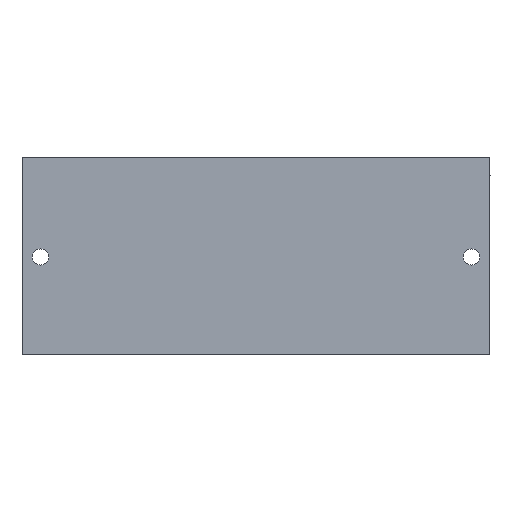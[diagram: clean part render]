
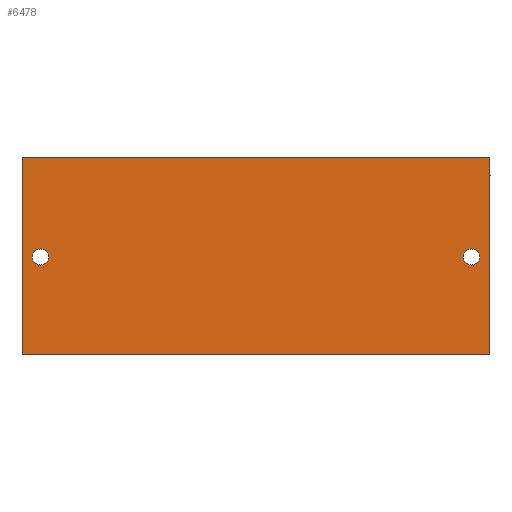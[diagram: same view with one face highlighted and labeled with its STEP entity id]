
A CAD part, front view. The second image highlights one B-rep face of the part: STEP entity #6478.
In plain terms, the highlighted planar face has unit normal (0, -1, 0).
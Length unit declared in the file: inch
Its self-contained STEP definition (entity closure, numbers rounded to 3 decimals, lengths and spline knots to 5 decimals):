
#84 = CIRCLE ( 'NONE', #210, 0.164 ) ;
#210 = AXIS2_PLACEMENT_3D ( 'NONE', #17664, #8723, #19172 ) ;
#327 = AXIS2_PLACEMENT_3D ( 'NONE', #11239, #2278, #12725 ) ;
#986 = VERTEX_POINT ( 'NONE', #18528 ) ;
#1224 = DIRECTION ( 'NONE',  ( 0., 0., -1. ) ) ;
#1345 = EDGE_LOOP ( 'NONE', ( #8851, #9777 ) ) ;
#1467 = VERTEX_POINT ( 'NONE', #12707 ) ;
#1694 = CARTESIAN_POINT ( 'NONE',  ( 9.5, 0., 0. ) ) ;
#2027 = DIRECTION ( 'NONE',  ( 0., 1., 0. ) ) ;
#2278 = DIRECTION ( 'NONE',  ( 0., 1., 0. ) ) ;
#2705 = VECTOR ( 'NONE', #7541, 39.37008 ) ;
#2760 = CARTESIAN_POINT ( 'NONE',  ( 0., 0., 0. ) ) ;
#3185 = VECTOR ( 'NONE', #11961, 39.37008 ) ;
#3341 = VERTEX_POINT ( 'NONE', #18636 ) ;
#3638 = VECTOR ( 'NONE', #1224, 39.37008 ) ;
#3829 = VERTEX_POINT ( 'NONE', #14804 ) ;
#3967 = AXIS2_PLACEMENT_3D ( 'NONE', #11078, #11058, #11051 ) ;
#4126 = LINE ( 'NONE', #19065, #3638 ) ;
#4139 = ORIENTED_EDGE ( 'NONE', *, *, #17902, .F. ) ;
#4462 = AXIS2_PLACEMENT_3D ( 'NONE', #14845, #14908, #14764 ) ;
#5063 = LINE ( 'NONE', #6692, #16993 ) ;
#5288 = VERTEX_POINT ( 'NONE', #1694 ) ;
#5597 = FACE_BOUND ( 'NONE', #1345, .T. ) ;
#6478 = ADVANCED_FACE ( 'NONE', ( #5597, #9084, #9549 ), #14812, .F. ) ;
#6692 = CARTESIAN_POINT ( 'NONE',  ( 9.5, 0., 0. ) ) ;
#6771 = EDGE_LOOP ( 'NONE', ( #18183, #4139, #12983, #9985 ) ) ;
#6868 = EDGE_CURVE ( 'NONE', #17764, #11038, #19388, .T. ) ;
#7170 = LINE ( 'NONE', #10463, #3185 ) ;
#7541 = DIRECTION ( 'NONE',  ( 0., 0., -1. ) ) ;
#8723 = DIRECTION ( 'NONE',  ( 0., 1., 0. ) ) ;
#8813 = ORIENTED_EDGE ( 'NONE', *, *, #6868, .T. ) ;
#8851 = ORIENTED_EDGE ( 'NONE', *, *, #17814, .T. ) ;
#9029 = CIRCLE ( 'NONE', #327, 0.164 ) ;
#9084 = FACE_BOUND ( 'NONE', #16349, .T. ) ;
#9549 = FACE_OUTER_BOUND ( 'NONE', #6771, .T. ) ;
#9777 = ORIENTED_EDGE ( 'NONE', *, *, #10643, .T. ) ;
#9985 = ORIENTED_EDGE ( 'NONE', *, *, #17772, .T. ) ;
#10463 = CARTESIAN_POINT ( 'NONE',  ( 9.5, 0., -4. ) ) ;
#10643 = EDGE_CURVE ( 'NONE', #3829, #986, #14679, .T. ) ;
#10985 = CARTESIAN_POINT ( 'NONE',  ( 0.375, 0., -2.02 ) ) ;
#11038 = VERTEX_POINT ( 'NONE', #16692 ) ;
#11051 = DIRECTION ( 'NONE',  ( 0., 0., 1. ) ) ;
#11058 = DIRECTION ( 'NONE',  ( 0., 1., 0. ) ) ;
#11078 = CARTESIAN_POINT ( 'NONE',  ( 9.125, 0., -2.02 ) ) ;
#11159 = DIRECTION ( 'NONE',  ( -1., 0., 0. ) ) ;
#11239 = CARTESIAN_POINT ( 'NONE',  ( 0.375, 0., -2.02 ) ) ;
#11961 = DIRECTION ( 'NONE',  ( -1., 0., 0. ) ) ;
#12048 = VERTEX_POINT ( 'NONE', #2760 ) ;
#12250 = AXIS2_PLACEMENT_3D ( 'NONE', #10985, #2027, #12491 ) ;
#12491 = DIRECTION ( 'NONE',  ( 0., 0., 1. ) ) ;
#12707 = CARTESIAN_POINT ( 'NONE',  ( 9.5, 0., -4. ) ) ;
#12725 = DIRECTION ( 'NONE',  ( 0., 0., 1. ) ) ;
#12983 = ORIENTED_EDGE ( 'NONE', *, *, #17923, .F. ) ;
#13898 = ORIENTED_EDGE ( 'NONE', *, *, #17844, .T. ) ;
#14121 = LINE ( 'NONE', #18188, #2705 ) ;
#14679 = CIRCLE ( 'NONE', #12250, 0.164 ) ;
#14764 = DIRECTION ( 'NONE',  ( 0., 0., 1. ) ) ;
#14804 = CARTESIAN_POINT ( 'NONE',  ( 0.375, 0., -2.184 ) ) ;
#14812 = PLANE ( 'NONE',  #4462 ) ;
#14845 = CARTESIAN_POINT ( 'NONE',  ( 9.5, 0., 0. ) ) ;
#14908 = DIRECTION ( 'NONE',  ( 0., 1., 0. ) ) ;
#16349 = EDGE_LOOP ( 'NONE', ( #13898, #8813 ) ) ;
#16692 = CARTESIAN_POINT ( 'NONE',  ( 9.125, 0., -1.856 ) ) ;
#16993 = VECTOR ( 'NONE', #11159, 39.37008 ) ;
#17155 = CARTESIAN_POINT ( 'NONE',  ( 9.125, 0., -2.184 ) ) ;
#17664 = CARTESIAN_POINT ( 'NONE',  ( 9.125, 0., -2.02 ) ) ;
#17764 = VERTEX_POINT ( 'NONE', #17155 ) ;
#17772 = EDGE_CURVE ( 'NONE', #5288, #12048, #5063, .T. ) ;
#17814 = EDGE_CURVE ( 'NONE', #986, #3829, #9029, .T. ) ;
#17844 = EDGE_CURVE ( 'NONE', #11038, #17764, #84, .T. ) ;
#17872 = EDGE_CURVE ( 'NONE', #12048, #3341, #4126, .T. ) ;
#17902 = EDGE_CURVE ( 'NONE', #1467, #3341, #7170, .T. ) ;
#17923 = EDGE_CURVE ( 'NONE', #5288, #1467, #14121, .T. ) ;
#18183 = ORIENTED_EDGE ( 'NONE', *, *, #17872, .T. ) ;
#18188 = CARTESIAN_POINT ( 'NONE',  ( 9.5, 0., 0. ) ) ;
#18528 = CARTESIAN_POINT ( 'NONE',  ( 0.375, 0., -1.856 ) ) ;
#18636 = CARTESIAN_POINT ( 'NONE',  ( 0., 0., -4. ) ) ;
#19065 = CARTESIAN_POINT ( 'NONE',  ( 0., 0., 0. ) ) ;
#19172 = DIRECTION ( 'NONE',  ( 0., 0., 1. ) ) ;
#19388 = CIRCLE ( 'NONE', #3967, 0.164 ) ;
